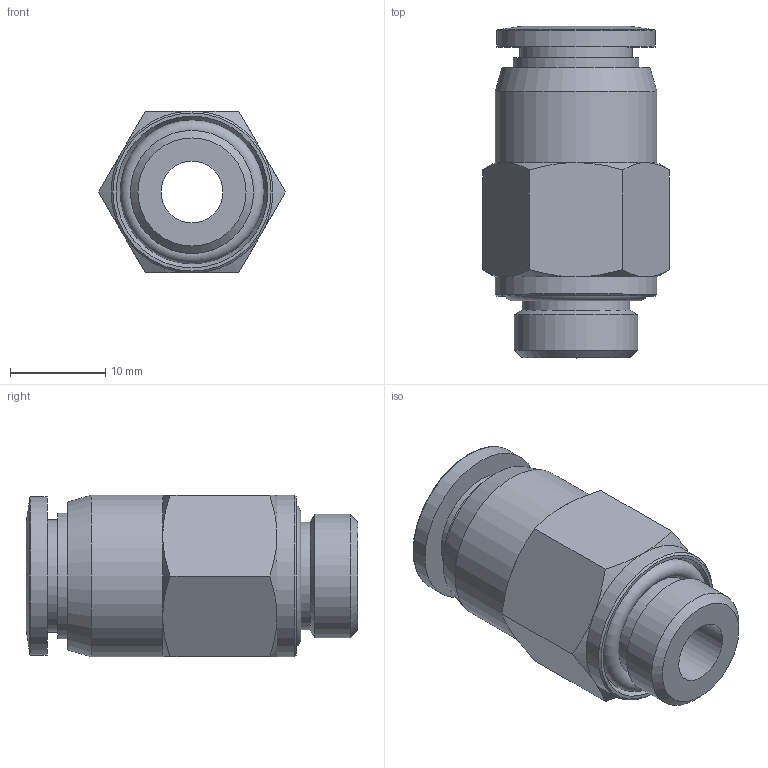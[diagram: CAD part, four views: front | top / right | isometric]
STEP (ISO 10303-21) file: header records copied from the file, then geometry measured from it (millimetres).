
FILE_DESCRIPTION((''),'2;1');
FILE_NAME('D:\INVENTOR\[New Inventor]\CDC Products 3D Ass''y\Stop Fittings\G\SPC-G\SPC10-G02.stp','2009-02-13T13:32:15',('Microsoft'),(''),'Autodesk Inventor 2008','Autodesk Inventor 2008','');
FILE_SCHEMA(('AUTOMOTIVE_DESIGN { 1 0 10303 214 1 1 1 1 }'));
Length unit declared in the file: millimetre
Products named in the file (1): SPC10-G02
Bounding box: 19.63 x 34.85 x 17 mm (x, y, z)
Volume: 5049.2 mm3; surface area: 3667.4 mm2
Topology: 2 solids, 2 shells, 47 faces, 96 edges, 56 vertices
Faces by surface type: cone 18, plane 15, cylinder 10, torus 4
Full cylindrical faces by diameter (mm): 6.5 x1, 10.3 x1, 11.3 x2, 11.8 x1, 12.95 x1, 13.2 x1, 16.6 x1, 17 x2
Entity records: 1074 total; most frequent: CARTESIAN_POINT 216, DIRECTION 182, ORIENTED_EDGE 140, AXIS2_PLACEMENT_3D 88, EDGE_LOOP 76, EDGE_CURVE 70, VERTEX_POINT 50, FACE_OUTER_BOUND 47
